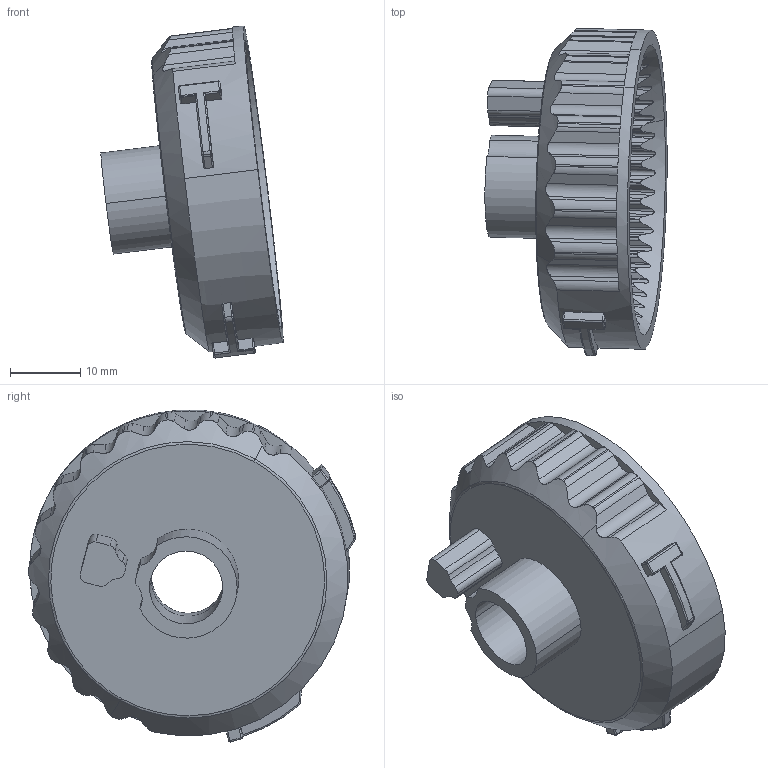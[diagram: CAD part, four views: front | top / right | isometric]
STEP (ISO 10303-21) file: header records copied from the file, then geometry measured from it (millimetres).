
FILE_DESCRIPTION(('CATIA V5 STEP Exchange'),'2;1');
FILE_NAME('C:\Users\Administrator\Desktop\kalun.stp','2021-11-22T08:46:09+00:00',('none'),('none'),'CATIA Version 5 Release 20 GA (IN-10)','CATIA V5 STEP AP214','none');
FILE_SCHEMA(('AUTOMOTIVE_DESIGN { 1 0 10303 214 1 1 1 1 }'));
Length unit declared in the file: millimetre
Products named in the file (1): SHT0010363.1
Bounding box: 25.87 x 46.47 x 47.14 mm (x, y, z)
Volume: 9691.7 mm3; surface area: 7244.1 mm2
Topology: 1 solids, 1 shells, 485 faces, 1448 edges, 957 vertices
Faces by surface type: cylinder 304, plane 134, torus 18, sphere 13, extrusion 8, cone 6, revolution 2
Entity records: 17569 total; most frequent: CARTESIAN_POINT 5680, ORIENTED_EDGE 2870, DIRECTION 1837, EDGE_CURVE 1435, VERTEX_POINT 957, AXIS2_PLACEMENT_3D 818, B_SPLINE_CURVE_WITH_KNOTS 552, VECTOR 551
